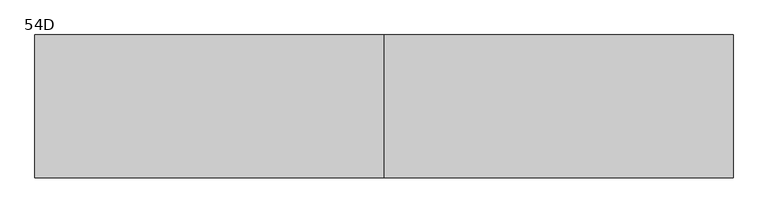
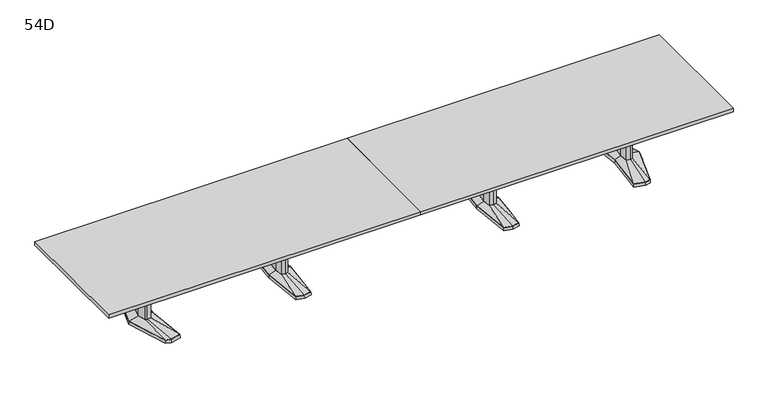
"""IFC4 building model written with IfcOpenShell, lengths in millimetres: furniture geometry, Coalesse_AM_Table_Conference_ETable2_Rectangular_22ft_AluminiumBase : 54D."""

from ifc_helpers import new_model, si_unit, frame, origin, place, context, project, spatial, polyline, outline, extrude, faceted_brep, source, transform, mapped, element, save
from ifc_brep_helpers import plane_surface, spline_surface, advanced_brep


def furniture_54d_8565a637(model_context):
    return source(origin(), model_context, "Body", "SolidModel", [
        faceted_brep([(1036.3666209, -433.8053819, 38.1), (1117.6, -455.556576, 38.1), (1198.8333791, -433.8053819, 38.1), (1236.6564774, 0.0, 38.1), (1198.8333791, 433.8053819, 38.1), (1117.6, 455.556576, 38.1), (1036.3666209, 433.8053819, 38.1), (998.5435226, 0.0, 38.1), (1034.8817205, -435.0512063, 3.175), (996.95, 0.0, 3.175), (1034.8817205, 435.0512063, 3.175), (1117.6, 457.2, 3.175), (1200.3182795, 435.0512063, 3.175), (1238.25, 0.0, 3.175), (1200.3182795, -435.0512063, 3.175), (1117.6, -457.2, 3.175), (1117.6, 429.2617927, 3.175), (1039.6323194, 408.3850278, 3.175), (1042.8980179, 382.9646737, 3.175), (1117.6, 402.9670094, 3.175), (1192.3019821, 382.9646737, 3.175), (1195.5676806, 408.3850278, 3.175), (1117.6, -429.2617927, 3.175), (1195.5676806, -408.3850278, 3.175), (1192.3019821, -382.9646737, 3.175), (1117.6, -402.9670094, 3.175), (1042.8980179, -382.9646737, 3.175), (1039.6323194, -408.3850278, 3.175), (1045.7425738, 114.6326257, 3.175), (1035.0573924, 0.0, 3.175), (1045.7425738, -114.6326257, 3.175), (1117.6, -133.8761372, 3.175), (1189.4574262, -114.6326257, 3.175), (1200.1426076, 0.0, 3.175), (1189.4574262, 114.6326257, 3.175), (1117.6, 133.8761372, 3.175), (1117.6, 429.2617927, 0.0), (1195.5676806, 408.3850278, 0.0), (1192.3019821, 382.9646737, 0.0), (1117.6, 402.9670094, 0.0), (1042.8980179, 382.9646737, 0.0), (1039.6323194, 408.3850278, 0.0), (1117.6, -429.2617927, 0.0), (1039.6323194, -408.3850278, 0.0), (1042.8980179, -382.9646737, 0.0), (1117.6, -402.9670094, 0.0), (1192.3019821, -382.9646737, 0.0), (1195.5676806, -408.3850278, 0.0), (1045.7425738, 114.6326257, 0.0), (1117.6, 133.8761372, 0.0), (1189.4574262, 114.6326257, 0.0), (1200.1426076, 0.0, 0.0), (1189.4574262, -114.6326257, 0.0), (1117.6, -133.8761372, 0.0), (1045.7425738, -114.6326257, 0.0), (1035.0573924, 0.0, 0.0)], [[[0, 1, 2, 3, 4, 5, 6, 7]], [[8, 9, 10, 11, 12, 13, 14, 15], [16, 17, 18, 19, 20, 21], [22, 23, 24, 25, 26, 27], [28, 29, 30, 31, 32, 33, 34, 35]], [[1, 0, 8, 15]], [[2, 1, 15, 14]], [[3, 2, 14, 13]], [[4, 3, 13, 12]], [[5, 4, 12, 11]], [[6, 5, 11, 10]], [[7, 6, 10, 9]], [[0, 7, 9, 8]], [[36, 37, 38, 39, 40, 41]], [[42, 43, 44, 45, 46, 47]], [[48, 49, 50, 51, 52, 53, 54, 55]], [[36, 41, 17, 16]], [[41, 40, 18, 17]], [[40, 39, 19, 18]], [[39, 38, 20, 19]], [[38, 37, 21, 20]], [[37, 36, 16, 21]], [[42, 47, 23, 22]], [[47, 46, 24, 23]], [[46, 45, 25, 24]], [[45, 44, 26, 25]], [[44, 43, 27, 26]], [[43, 42, 22, 27]], [[48, 55, 29, 28]], [[55, 54, 30, 29]], [[54, 53, 31, 30]], [[53, 52, 32, 31]], [[52, 51, 33, 32]], [[51, 50, 34, 33]], [[50, 49, 35, 34]], [[49, 48, 28, 35]]]),
        faceted_brep([(1081.2167166, 84.6900825, 698.5), (1073.3225513, 0.0, 698.5), (1081.2167166, -84.6900825, 698.5), (1117.6, -94.4335728, 698.5), (1153.9832834, -84.6900825, 698.5), (1161.8774487, 0.0, 698.5), (1153.9832834, 84.6900825, 698.5), (1117.6, 94.4335728, 698.5), (1081.2167166, 84.6900825, 63.5), (1117.6, 94.4335728, 63.5), (1153.9832834, 84.6900825, 63.5), (1161.8774487, 0.0, 63.5), (1153.9832834, -84.6900825, 63.5), (1117.6, -94.4335728, 63.5), (1081.2167166, -84.6900825, 63.5), (1073.3225513, 0.0, 63.5)], [[[0, 1, 2, 3, 4, 5, 6, 7]], [[8, 9, 10, 11, 12, 13, 14, 15]], [[1, 0, 8, 15]], [[2, 1, 15, 14]], [[3, 2, 14, 13]], [[4, 3, 13, 12]], [[5, 4, 12, 11]], [[6, 5, 11, 10]], [[7, 6, 10, 9]], [[0, 7, 9, 8]]]),
        advanced_brep(
        [(1081.2167166, 84.6900825, 63.5), (1073.3225513, 0.0, 63.5), (1081.2167166, -84.6900825, 63.5), (1117.6, -94.4335728, 63.5), (1153.9832834, -84.6900825, 63.5), (1161.8774487, 0.0, 63.5), (1153.9832834, 84.6900825, 63.5), (1117.6, 94.4335728, 63.5), (1036.3666209, 433.8053819, 38.1), (1117.6, 455.556576, 38.1), (1198.8333791, 433.8053819, 38.1), (1236.6564774, 0.0, 38.1), (1198.8333791, -433.8053819, 38.1), (1117.6, -455.556576, 38.1), (1036.3666209, -433.8053819, 38.1), (998.5435226, 0.0, 38.1)],
        [
            (0, 1),
            (1, 2),
            (2, 3),
            (3, 4),
            (4, 5),
            (5, 6),
            (6, 7),
            (7, 0),
            (8, 9),
            (9, 10),
            (10, 11),
            (11, 12),
            (12, 13),
            (13, 14),
            (14, 15),
            (15, 8),
            (15, 1),
            (0, 8),
            (14, 2),
            (13, 3),
            (12, 4),
            (11, 5),
            (10, 6),
            (9, 7),
        ],
        [
            plane_surface(frame((1117.6, 0.0, 63.5), z_axis=(0.0, 0.0, 1.0000000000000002), x_axis=(-0.9659615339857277, -0.25868574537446, 0.0))),
            plane_surface(frame((1117.6, 0.0, 38.1), z_axis=(0.0, 0.0, -1.0000000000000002), x_axis=(-0.9659615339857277, -0.25868574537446, 0.0))),
            spline_surface(1, 1, [[(1036.3666209, 433.8053819, 38.1), (1081.2167166, 84.6900825, 63.5)], [(998.5435226, 0.0, 38.1), (1073.3225513, 0.0, 63.5)]], [2, 2], [2, 2], [0.0, 1.0], [0.0, 1.0]),
            spline_surface(1, 1, [[(998.5435226, 0.0, 38.1), (1073.3225513, 0.0, 63.5)], [(1036.3666209, -433.8053819, 38.1), (1081.2167166, -84.6900825, 63.5)]], [2, 2], [2, 2], [0.0, 1.0], [0.0, 1.0]),
            spline_surface(1, 1, [[(1036.3666209, -433.8053819, 38.1), (1081.2167166, -84.6900825, 63.5)], [(1117.6, -455.556576, 38.1), (1117.6, -94.4335728, 63.5)]], [2, 2], [2, 2], [0.0, 1.0], [0.0, 1.0]),
            spline_surface(1, 1, [[(1117.6, -455.556576, 38.1), (1117.6, -94.4335728, 63.5)], [(1198.8333791, -433.8053819, 38.1), (1153.9832834, -84.6900825, 63.5)]], [2, 2], [2, 2], [0.0, 1.0], [0.0, 1.0]),
            spline_surface(1, 1, [[(1198.8333791, -433.8053819, 38.1), (1153.9832834, -84.6900825, 63.5)], [(1236.6564774, 0.0, 38.1), (1161.8774487, 0.0, 63.5)]], [2, 2], [2, 2], [0.0, 1.0], [0.0, 1.0]),
            spline_surface(1, 1, [[(1236.6564774, 0.0, 38.1), (1161.8774487, 0.0, 63.5)], [(1198.8333791, 433.8053819, 38.1), (1153.9832834, 84.6900825, 63.5)]], [2, 2], [2, 2], [0.0, 1.0], [0.0, 1.0]),
            spline_surface(1, 1, [[(1198.8333791, 433.8053819, 38.1), (1153.9832834, 84.6900825, 63.5)], [(1117.6, 455.556576, 38.1), (1117.6, 94.4335728, 63.5)]], [2, 2], [2, 2], [0.0, 1.0], [0.0, 1.0]),
            spline_surface(1, 1, [[(1117.6, 455.556576, 38.1), (1117.6, 94.4335728, 63.5)], [(1036.3666209, 433.8053819, 38.1), (1081.2167166, 84.6900825, 63.5)]], [2, 2], [2, 2], [0.0, 1.0], [0.0, 1.0]),
        ],
        [
            (0, [[1, 2, 3, 4, 5, 6, 7, 8]]),
            (1, [[9, 10, 11, 12, 13, 14, 15, 16]]),
            (2, [[-16, 17, -1, 18]]),
            (3, [[-15, 19, -2, -17]]),
            (4, [[-14, 20, -3, -19]]),
            (5, [[-13, 21, -4, -20]]),
            (6, [[-12, 22, -5, -21]]),
            (7, [[-11, 23, -6, -22]]),
            (8, [[-10, 24, -7, -23]]),
            (9, [[-9, -18, -8, -24]]),
        ],
    ),
        faceted_brep([(-1198.8333791, -433.8053819, 38.1), (-1117.6, -455.556576, 38.1), (-1036.3666209, -433.8053819, 38.1), (-998.5435226, 0.0, 38.1), (-1036.3666209, 433.8053819, 38.1), (-1117.6, 455.556576, 38.1), (-1198.8333791, 433.8053819, 38.1), (-1236.6564774, 0.0, 38.1), (-1200.3182795, -435.0512063, 3.175), (-1238.25, 0.0, 3.175), (-1200.3182795, 435.0512063, 3.175), (-1117.6, 457.2, 3.175), (-1034.8817205, 435.0512063, 3.175), (-996.95, 0.0, 3.175), (-1034.8817205, -435.0512063, 3.175), (-1117.6, -457.2, 3.175), (-1117.6, 429.2617927, 3.175), (-1195.5676806, 408.3850278, 3.175), (-1192.3019821, 382.9646737, 3.175), (-1117.6, 402.9670094, 3.175), (-1042.8980179, 382.9646737, 3.175), (-1039.6323194, 408.3850278, 3.175), (-1117.6, -429.2617927, 3.175), (-1039.6323194, -408.3850278, 3.175), (-1042.8980179, -382.9646737, 3.175), (-1117.6, -402.9670094, 3.175), (-1192.3019821, -382.9646737, 3.175), (-1195.5676806, -408.3850278, 3.175), (-1189.4574262, 114.6326257, 3.175), (-1200.1426076, 0.0, 3.175), (-1189.4574262, -114.6326257, 3.175), (-1117.6, -133.8761372, 3.175), (-1045.7425738, -114.6326257, 3.175), (-1035.0573924, 0.0, 3.175), (-1045.7425738, 114.6326257, 3.175), (-1117.6, 133.8761372, 3.175), (-1117.6, 429.2617927, 0.0), (-1039.6323194, 408.3850278, 0.0), (-1042.8980179, 382.9646737, 0.0), (-1117.6, 402.9670094, 0.0), (-1192.3019821, 382.9646737, 0.0), (-1195.5676806, 408.3850278, 0.0), (-1117.6, -429.2617927, 0.0), (-1195.5676806, -408.3850278, 0.0), (-1192.3019821, -382.9646737, 0.0), (-1117.6, -402.9670094, 0.0), (-1042.8980179, -382.9646737, 0.0), (-1039.6323194, -408.3850278, 0.0), (-1189.4574262, 114.6326257, 0.0), (-1117.6, 133.8761372, 0.0), (-1045.7425738, 114.6326257, 0.0), (-1035.0573924, 0.0, 0.0), (-1045.7425738, -114.6326257, 0.0), (-1117.6, -133.8761372, 0.0), (-1189.4574262, -114.6326257, 0.0), (-1200.1426076, 0.0, 0.0)], [[[0, 1, 2, 3, 4, 5, 6, 7]], [[8, 9, 10, 11, 12, 13, 14, 15], [16, 17, 18, 19, 20, 21], [22, 23, 24, 25, 26, 27], [28, 29, 30, 31, 32, 33, 34, 35]], [[1, 0, 8, 15]], [[2, 1, 15, 14]], [[3, 2, 14, 13]], [[4, 3, 13, 12]], [[5, 4, 12, 11]], [[6, 5, 11, 10]], [[7, 6, 10, 9]], [[0, 7, 9, 8]], [[36, 37, 38, 39, 40, 41]], [[42, 43, 44, 45, 46, 47]], [[48, 49, 50, 51, 52, 53, 54, 55]], [[36, 41, 17, 16]], [[41, 40, 18, 17]], [[40, 39, 19, 18]], [[39, 38, 20, 19]], [[38, 37, 21, 20]], [[37, 36, 16, 21]], [[42, 47, 23, 22]], [[47, 46, 24, 23]], [[46, 45, 25, 24]], [[45, 44, 26, 25]], [[44, 43, 27, 26]], [[43, 42, 22, 27]], [[48, 55, 29, 28]], [[55, 54, 30, 29]], [[54, 53, 31, 30]], [[53, 52, 32, 31]], [[52, 51, 33, 32]], [[51, 50, 34, 33]], [[50, 49, 35, 34]], [[49, 48, 28, 35]]]),
        faceted_brep([(-1153.9832834, 84.6900825, 698.5), (-1161.8774487, 0.0, 698.5), (-1153.9832834, -84.6900825, 698.5), (-1117.6, -94.4335728, 698.5), (-1081.2167166, -84.6900825, 698.5), (-1073.3225513, 0.0, 698.5), (-1081.2167166, 84.6900825, 698.5), (-1117.6, 94.4335728, 698.5), (-1153.9832834, 84.6900825, 63.5), (-1117.6, 94.4335728, 63.5), (-1081.2167166, 84.6900825, 63.5), (-1073.3225513, 0.0, 63.5), (-1081.2167166, -84.6900825, 63.5), (-1117.6, -94.4335728, 63.5), (-1153.9832834, -84.6900825, 63.5), (-1161.8774487, 0.0, 63.5)], [[[0, 1, 2, 3, 4, 5, 6, 7]], [[8, 9, 10, 11, 12, 13, 14, 15]], [[1, 0, 8, 15]], [[2, 1, 15, 14]], [[3, 2, 14, 13]], [[4, 3, 13, 12]], [[5, 4, 12, 11]], [[6, 5, 11, 10]], [[7, 6, 10, 9]], [[0, 7, 9, 8]]]),
        advanced_brep(
        [(-1153.9832834, 84.6900825, 63.5), (-1161.8774487, 0.0, 63.5), (-1153.9832834, -84.6900825, 63.5), (-1117.6, -94.4335728, 63.5), (-1081.2167166, -84.6900825, 63.5), (-1073.3225513, 0.0, 63.5), (-1081.2167166, 84.6900825, 63.5), (-1117.6, 94.4335728, 63.5), (-1198.8333791, 433.8053819, 38.1), (-1117.6, 455.556576, 38.1), (-1036.3666209, 433.8053819, 38.1), (-998.5435226, 0.0, 38.1), (-1036.3666209, -433.8053819, 38.1), (-1117.6, -455.556576, 38.1), (-1198.8333791, -433.8053819, 38.1), (-1236.6564774, 0.0, 38.1)],
        [
            (0, 1),
            (1, 2),
            (2, 3),
            (3, 4),
            (4, 5),
            (5, 6),
            (6, 7),
            (7, 0),
            (8, 9),
            (9, 10),
            (10, 11),
            (11, 12),
            (12, 13),
            (13, 14),
            (14, 15),
            (15, 8),
            (15, 1),
            (0, 8),
            (14, 2),
            (13, 3),
            (12, 4),
            (11, 5),
            (10, 6),
            (9, 7),
        ],
        [
            plane_surface(frame((-1117.6, 0.0, 63.5), z_axis=(0.0, 0.0, 1.0000000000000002), x_axis=(-0.9659615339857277, -0.25868574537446, 0.0))),
            plane_surface(frame((-1117.6, 0.0, 38.1), z_axis=(0.0, 0.0, -1.0000000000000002), x_axis=(-0.9659615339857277, -0.25868574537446, 0.0))),
            spline_surface(1, 1, [[(-1198.8333791, 433.8053819, 38.1), (-1153.9832834, 84.6900825, 63.5)], [(-1236.6564774, 0.0, 38.1), (-1161.8774487, 0.0, 63.5)]], [2, 2], [2, 2], [0.0, 1.0], [0.0, 1.0]),
            spline_surface(1, 1, [[(-1236.6564774, 0.0, 38.1), (-1161.8774487, 0.0, 63.5)], [(-1198.8333791, -433.8053819, 38.1), (-1153.9832834, -84.6900825, 63.5)]], [2, 2], [2, 2], [0.0, 1.0], [0.0, 1.0]),
            spline_surface(1, 1, [[(-1198.8333791, -433.8053819, 38.1), (-1153.9832834, -84.6900825, 63.5)], [(-1117.6, -455.556576, 38.1), (-1117.6, -94.4335728, 63.5)]], [2, 2], [2, 2], [0.0, 1.0], [0.0, 1.0]),
            spline_surface(1, 1, [[(-1117.6, -455.556576, 38.1), (-1117.6, -94.4335728, 63.5)], [(-1036.3666209, -433.8053819, 38.1), (-1081.2167166, -84.6900825, 63.5)]], [2, 2], [2, 2], [0.0, 1.0], [0.0, 1.0]),
            spline_surface(1, 1, [[(-1036.3666209, -433.8053819, 38.1), (-1081.2167166, -84.6900825, 63.5)], [(-998.5435226, 0.0, 38.1), (-1073.3225513, 0.0, 63.5)]], [2, 2], [2, 2], [0.0, 1.0], [0.0, 1.0]),
            spline_surface(1, 1, [[(-998.5435226, 0.0, 38.1), (-1073.3225513, 0.0, 63.5)], [(-1036.3666209, 433.8053819, 38.1), (-1081.2167166, 84.6900825, 63.5)]], [2, 2], [2, 2], [0.0, 1.0], [0.0, 1.0]),
            spline_surface(1, 1, [[(-1036.3666209, 433.8053819, 38.1), (-1081.2167166, 84.6900825, 63.5)], [(-1117.6, 455.556576, 38.1), (-1117.6, 94.4335728, 63.5)]], [2, 2], [2, 2], [0.0, 1.0], [0.0, 1.0]),
            spline_surface(1, 1, [[(-1117.6, 455.556576, 38.1), (-1117.6, 94.4335728, 63.5)], [(-1198.8333791, 433.8053819, 38.1), (-1153.9832834, 84.6900825, 63.5)]], [2, 2], [2, 2], [0.0, 1.0], [0.0, 1.0]),
        ],
        [
            (0, [[1, 2, 3, 4, 5, 6, 7, 8]]),
            (1, [[9, 10, 11, 12, 13, 14, 15, 16]]),
            (2, [[-16, 17, -1, 18]]),
            (3, [[-15, 19, -2, -17]]),
            (4, [[-14, 20, -3, -19]]),
            (5, [[-13, 21, -4, -20]]),
            (6, [[-12, 22, -5, -21]]),
            (7, [[-11, 23, -6, -22]]),
            (8, [[-10, 24, -7, -23]]),
            (9, [[-9, -18, -8, -24]]),
        ],
    ),
        faceted_brep([(2548.0994335, 455.5848221, 38.1), (2438.5218777, 426.2263816, 38.1), (2479.6851217, 0.0, 38.1), (2438.5218777, -426.2263816, 38.1), (2548.0994335, -455.5848221, 38.1), (2604.2257896, -440.5478297, 38.1), (2741.5371769, 0.0, 38.1), (2604.2257896, 440.5478297, 38.1), (2548.0994254, 457.2283104, 3.175), (2605.4811972, 441.8549756, 3.175), (2743.2, 0.0, 3.175), (2605.4811972, -441.8549756, 3.175), (2548.0994254, -457.2283104, 3.175), (2436.8125, -427.4118891, 3.175), (2478.0902356, 0.0, 3.175), (2436.8125, 427.4118891, 3.175), (2551.688865, 428.3273875, 3.175), (2446.6405728, 402.1057253, 3.175), (2454.759268, 377.985069, 3.175), (2555.2782966, 401.0699529, 3.175), (2605.8379225, 387.524361, 3.175), (2605.0318561, 414.0360954, 3.175), (2551.688865, -428.3273875, 3.175), (2605.0318561, -414.0360954, 3.175), (2605.8379225, -387.524361, 3.175), (2555.2782966, -401.0699529, 3.175), (2454.759268, -377.985069, 3.175), (2446.6405728, -402.1057253, 3.175), (2678.2841121, 0.0, 3.175), (2646.0147111, 120.4193755, 3.175), (2597.3674722, 133.471665, 3.175), (2517.4868026, 119.4176561, 3.175), (2506.3555966, 0.0, 3.175), (2517.4868026, -119.4176561, 3.175), (2597.3674722, -133.471665, 3.175), (2646.0147111, -120.4193755, 3.175), (2551.688865, 428.3273875, 0.0), (2605.0318561, 414.0360954, 0.0), (2605.8379225, 387.524361, 0.0), (2555.2782966, 401.0699529, 0.0), (2454.759268, 377.985069, 0.0), (2446.6405728, 402.1057253, 0.0), (2551.688865, -428.3273875, 0.0), (2446.6405728, -402.1057253, 0.0), (2454.759268, -377.985069, 0.0), (2555.2782966, -401.0699529, 0.0), (2605.8379225, -387.524361, 0.0), (2605.0318561, -414.0360954, 0.0), (2678.2841121, 0.0, 0.0), (2646.0147111, -120.4193755, 0.0), (2597.3674722, -133.471665, 0.0), (2517.4868026, -119.4176561, 0.0), (2506.3555966, 0.0, 0.0), (2517.4868026, 119.4176561, 0.0), (2597.3674722, 133.471665, 0.0), (2646.0147111, 120.4193755, 0.0)], [[[0, 1, 2, 3, 4, 5, 6, 7]], [[8, 9, 10, 11, 12, 13, 14, 15], [16, 17, 18, 19, 20, 21], [22, 23, 24, 25, 26, 27], [28, 29, 30, 31, 32, 33, 34, 35]], [[7, 9, 8, 0]], [[6, 10, 9, 7]], [[5, 11, 10, 6]], [[4, 12, 11, 5]], [[3, 13, 12, 4]], [[2, 14, 13, 3]], [[1, 15, 14, 2]], [[0, 8, 15, 1]], [[36, 37, 38, 39, 40, 41]], [[42, 43, 44, 45, 46, 47]], [[48, 49, 50, 51, 52, 53, 54, 55]], [[36, 16, 21, 37]], [[37, 21, 20, 38]], [[38, 20, 19, 39]], [[39, 19, 18, 40]], [[40, 18, 17, 41]], [[41, 17, 16, 36]], [[42, 22, 27, 43]], [[43, 27, 26, 44]], [[44, 26, 25, 45]], [[45, 25, 24, 46]], [[46, 24, 23, 47]], [[47, 23, 22, 42]], [[48, 28, 35, 49]], [[49, 35, 34, 50]], [[50, 34, 33, 51]], [[51, 33, 32, 52]], [[52, 32, 31, 53]], [[53, 31, 30, 54]], [[54, 30, 29, 55]], [[55, 29, 28, 48]]]),
        faceted_brep([(2638.8398336, 0.0, 698.5), (2614.9046046, 89.3188359, 698.5), (2598.0512484, 93.8406728, 698.5), (2595.6514011, 94.4845635, 698.5), (2552.723896, 86.9320037, 698.5), (2544.6207556, 0.0, 698.5), (2552.723896, -86.9320037, 698.5), (2595.6514011, -94.4845635, 698.5), (2598.0512484, -93.8406728, 698.5), (2614.9046046, -89.3188359, 698.5), (2638.8398336, 0.0, 63.5), (2614.9046046, -89.3188359, 63.5), (2598.0512484, -93.8406728, 63.5), (2595.6514011, -94.4845635, 63.5), (2552.723896, -86.9320037, 63.5), (2544.6207556, 0.0, 63.5), (2552.723896, 86.9320037, 63.5), (2595.6514011, 94.4845635, 63.5), (2598.0512484, 93.8406728, 63.5), (2614.9046046, 89.3188359, 63.5)], [[[0, 1, 2, 3, 4, 5, 6, 7, 8, 9]], [[10, 11, 12, 13, 14, 15, 16, 17, 18, 19]], [[9, 11, 10, 0]], [[8, 12, 11, 9]], [[7, 13, 12, 8]], [[6, 14, 13, 7]], [[5, 15, 14, 6]], [[4, 16, 15, 5]], [[3, 17, 16, 4]], [[2, 18, 17, 3]], [[1, 19, 18, 2]], [[0, 10, 19, 1]]]),
        advanced_brep(
        [(2595.6514011, 94.4845635, 63.5), (2552.723896, 86.9320037, 63.5), (2544.6207556, 0.0, 63.5), (2552.723896, -86.9320037, 63.5), (2595.6514011, -94.4845635, 63.5), (2614.9046046, -89.3188359, 63.5), (2638.8398336, 0.0, 63.5), (2614.9046046, 89.3188359, 63.5), (2548.0994335, 455.5848221, 38.1), (2604.2257896, 440.5478297, 38.1), (2741.5371769, 0.0, 38.1), (2604.2257896, -440.5478297, 38.1), (2548.0994335, -455.5848221, 38.1), (2438.5218777, -426.2263816, 38.1), (2479.6851217, 0.0, 38.1), (2438.5218777, 426.2263816, 38.1)],
        [
            (0, 1),
            (1, 2),
            (2, 3),
            (3, 4),
            (4, 5),
            (5, 6),
            (6, 7),
            (7, 0),
            (8, 9),
            (9, 10),
            (10, 11),
            (11, 12),
            (12, 13),
            (13, 14),
            (14, 15),
            (15, 8),
            (8, 0),
            (7, 9),
            (6, 10),
            (5, 11),
            (4, 12),
            (3, 13),
            (2, 14),
            (1, 15),
        ],
        [
            plane_surface(frame((2588.7525491, 0.0, 63.5), z_axis=(0.0, 0.0, 1.0), x_axis=(-0.25884244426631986, -0.9659195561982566, 0.0))),
            plane_surface(frame((2550.3645625, 0.0, 38.1), z_axis=(0.0, 0.0, -1.0), x_axis=(-0.25884244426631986, -0.9659195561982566, 0.0))),
            spline_surface(1, 1, [[(2548.0994335, 455.5848221, 38.1), (2604.2257896, 440.5478297, 38.1)], [(2595.6514011, 94.4845635, 63.5), (2614.9046046, 89.3188359, 63.5)]], [2, 2], [2, 2], [0.0, 1.0], [0.0, 1.0]),
            spline_surface(1, 1, [[(2604.2257896, 440.5478297, 38.1), (2741.5371769, 0.0, 38.1)], [(2614.9046046, 89.3188359, 63.5), (2638.8398336, 0.0, 63.5)]], [2, 2], [2, 2], [0.0, 1.0], [0.0, 1.0]),
            spline_surface(1, 1, [[(2741.5371769, 0.0, 38.1), (2604.2257896, -440.5478297, 38.1)], [(2638.8398336, 0.0, 63.5), (2614.9046046, -89.3188359, 63.5)]], [2, 2], [2, 2], [0.0, 1.0], [0.0, 1.0]),
            spline_surface(1, 1, [[(2604.2257896, -440.5478297, 38.1), (2548.0994335, -455.5848221, 38.1)], [(2614.9046046, -89.3188359, 63.5), (2595.6514011, -94.4845635, 63.5)]], [2, 2], [2, 2], [0.0, 1.0], [0.0, 1.0]),
            spline_surface(1, 1, [[(2548.0994335, -455.5848221, 38.1), (2438.5218777, -426.2263816, 38.1)], [(2595.6514011, -94.4845635, 63.5), (2552.723896, -86.9320037, 63.5)]], [2, 2], [2, 2], [0.0, 1.0], [0.0, 1.0]),
            spline_surface(1, 1, [[(2438.5218777, -426.2263816, 38.1), (2479.6851217, 0.0, 38.1)], [(2552.723896, -86.9320037, 63.5), (2544.6207556, 0.0, 63.5)]], [2, 2], [2, 2], [0.0, 1.0], [0.0, 1.0]),
            spline_surface(1, 1, [[(2479.6851217, 0.0, 38.1), (2438.5218777, 426.2263816, 38.1)], [(2544.6207556, 0.0, 63.5), (2552.723896, 86.9320037, 63.5)]], [2, 2], [2, 2], [0.0, 1.0], [0.0, 1.0]),
            spline_surface(1, 1, [[(2438.5218777, 426.2263816, 38.1), (2548.0994335, 455.5848221, 38.1)], [(2552.723896, 86.9320037, 63.5), (2595.6514011, 94.4845635, 63.5)]], [2, 2], [2, 2], [0.0, 1.0], [0.0, 1.0]),
        ],
        [
            (0, [[1, 2, 3, 4, 5, 6, 7, 8]]),
            (1, [[9, 10, 11, 12, 13, 14, 15, 16]]),
            (2, [[17, -8, 18, -9]]),
            (3, [[-18, -7, 19, -10]]),
            (4, [[-19, -6, 20, -11]]),
            (5, [[-20, -5, 21, -12]]),
            (6, [[-21, -4, 22, -13]]),
            (7, [[-22, -3, 23, -14]]),
            (8, [[-23, -2, 24, -15]]),
            (9, [[-24, -1, -17, -16]]),
        ],
    ),
        faceted_brep([(-2548.0994335, 455.5848221, 38.1), (-2604.2257896, 440.5478297, 38.1), (-2741.5371769, 0.0, 38.1), (-2604.2257896, -440.5478297, 38.1), (-2548.0994335, -455.5848221, 38.1), (-2438.5218777, -426.2263816, 38.1), (-2479.6851217, 0.0, 38.1), (-2438.5218777, 426.2263816, 38.1), (-2548.0994254, 457.2283104, 3.175), (-2436.8125, 427.4118891, 3.175), (-2478.0902356, 0.0, 3.175), (-2436.8125, -427.4118891, 3.175), (-2548.0994254, -457.2283104, 3.175), (-2605.4811972, -441.8549756, 3.175), (-2743.2, 0.0, 3.175), (-2605.4811972, 441.8549756, 3.175), (-2551.688865, 428.3273875, 3.175), (-2605.0318561, 414.0360954, 3.175), (-2605.8379225, 387.524361, 3.175), (-2555.2782966, 401.0699529, 3.175), (-2454.759268, 377.985069, 3.175), (-2446.6405728, 402.1057253, 3.175), (-2551.688865, -428.3273875, 3.175), (-2446.6405728, -402.1057253, 3.175), (-2454.759268, -377.985069, 3.175), (-2555.2782966, -401.0699529, 3.175), (-2605.8379225, -387.524361, 3.175), (-2605.0318561, -414.0360954, 3.175), (-2678.2841121, 0.0, 3.175), (-2646.0147111, -120.4193755, 3.175), (-2597.3674722, -133.471665, 3.175), (-2517.4868026, -119.4176561, 3.175), (-2506.3555966, 0.0, 3.175), (-2517.4868026, 119.4176561, 3.175), (-2597.3674722, 133.471665, 3.175), (-2646.0147111, 120.4193755, 3.175), (-2551.688865, 428.3273875, 0.0), (-2446.6405728, 402.1057253, 0.0), (-2454.759268, 377.985069, 0.0), (-2555.2782966, 401.0699529, 0.0), (-2605.8379225, 387.524361, 0.0), (-2605.0318561, 414.0360954, 0.0), (-2551.688865, -428.3273875, 0.0), (-2605.0318561, -414.0360954, 0.0), (-2605.8379225, -387.524361, 0.0), (-2555.2782966, -401.0699529, 0.0), (-2454.759268, -377.985069, 0.0), (-2446.6405728, -402.1057253, 0.0), (-2678.2841121, 0.0, 0.0), (-2646.0147111, 120.4193755, 0.0), (-2597.3674722, 133.471665, 0.0), (-2517.4868026, 119.4176561, 0.0), (-2506.3555966, 0.0, 0.0), (-2517.4868026, -119.4176561, 0.0), (-2597.3674722, -133.471665, 0.0), (-2646.0147111, -120.4193755, 0.0)], [[[0, 1, 2, 3, 4, 5, 6, 7]], [[8, 9, 10, 11, 12, 13, 14, 15], [16, 17, 18, 19, 20, 21], [22, 23, 24, 25, 26, 27], [28, 29, 30, 31, 32, 33, 34, 35]], [[1, 0, 8, 15]], [[2, 1, 15, 14]], [[3, 2, 14, 13]], [[4, 3, 13, 12]], [[5, 4, 12, 11]], [[6, 5, 11, 10]], [[7, 6, 10, 9]], [[0, 7, 9, 8]], [[36, 37, 38, 39, 40, 41]], [[42, 43, 44, 45, 46, 47]], [[48, 49, 50, 51, 52, 53, 54, 55]], [[36, 41, 17, 16]], [[41, 40, 18, 17]], [[40, 39, 19, 18]], [[39, 38, 20, 19]], [[38, 37, 21, 20]], [[37, 36, 16, 21]], [[42, 47, 23, 22]], [[47, 46, 24, 23]], [[46, 45, 25, 24]], [[45, 44, 26, 25]], [[44, 43, 27, 26]], [[43, 42, 22, 27]], [[48, 55, 29, 28]], [[55, 54, 30, 29]], [[54, 53, 31, 30]], [[53, 52, 32, 31]], [[52, 51, 33, 32]], [[51, 50, 34, 33]], [[50, 49, 35, 34]], [[49, 48, 28, 35]]]),
        faceted_brep([(-2638.8398336, 0.0, 698.5), (-2614.9046046, -89.3188359, 698.5), (-2598.0512484, -93.8406728, 698.5), (-2595.6514011, -94.4845635, 698.5), (-2552.723896, -86.9320037, 698.5), (-2544.6207556, 0.0, 698.5), (-2552.723896, 86.9320037, 698.5), (-2595.6514011, 94.4845635, 698.5), (-2598.0512484, 93.8406728, 698.5), (-2614.9046046, 89.3188359, 698.5), (-2638.8398336, 0.0, 63.5), (-2614.9046046, 89.3188359, 63.5), (-2598.0512484, 93.8406728, 63.5), (-2595.6514011, 94.4845635, 63.5), (-2552.723896, 86.9320037, 63.5), (-2544.6207556, 0.0, 63.5), (-2552.723896, -86.9320037, 63.5), (-2595.6514011, -94.4845635, 63.5), (-2598.0512484, -93.8406728, 63.5), (-2614.9046046, -89.3188359, 63.5)], [[[0, 1, 2, 3, 4, 5, 6, 7, 8, 9]], [[10, 11, 12, 13, 14, 15, 16, 17, 18, 19]], [[1, 0, 10, 19]], [[2, 1, 19, 18]], [[3, 2, 18, 17]], [[4, 3, 17, 16]], [[5, 4, 16, 15]], [[6, 5, 15, 14]], [[7, 6, 14, 13]], [[8, 7, 13, 12]], [[9, 8, 12, 11]], [[0, 9, 11, 10]]]),
        advanced_brep(
        [(-2595.6514011, 94.4845635, 63.5), (-2614.9046046, 89.3188359, 63.5), (-2638.8398336, 0.0, 63.5), (-2614.9046046, -89.3188359, 63.5), (-2595.6514011, -94.4845635, 63.5), (-2552.723896, -86.9320037, 63.5), (-2544.6207556, 0.0, 63.5), (-2552.723896, 86.9320037, 63.5), (-2548.0994335, 455.5848221, 38.1), (-2438.5218777, 426.2263816, 38.1), (-2479.6851217, 0.0, 38.1), (-2438.5218777, -426.2263816, 38.1), (-2548.0994335, -455.5848221, 38.1), (-2604.2257896, -440.5478297, 38.1), (-2741.5371769, 0.0, 38.1), (-2604.2257896, 440.5478297, 38.1)],
        [
            (0, 1),
            (1, 2),
            (2, 3),
            (3, 4),
            (4, 5),
            (5, 6),
            (6, 7),
            (7, 0),
            (8, 9),
            (9, 10),
            (10, 11),
            (11, 12),
            (12, 13),
            (13, 14),
            (14, 15),
            (15, 8),
            (15, 1),
            (0, 8),
            (14, 2),
            (13, 3),
            (12, 4),
            (11, 5),
            (10, 6),
            (9, 7),
        ],
        [
            plane_surface(frame((-2588.7525491, 0.0, 63.5), z_axis=(0.0, 0.0, 1.0), x_axis=(0.25884244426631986, -0.9659195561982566, 0.0))),
            plane_surface(frame((-2550.3645625, 0.0, 38.1), z_axis=(0.0, 0.0, -1.0), x_axis=(0.25884244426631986, -0.9659195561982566, 0.0))),
            spline_surface(1, 1, [[(-2548.0994335, 455.5848221, 38.1), (-2595.6514011, 94.4845635, 63.5)], [(-2604.2257896, 440.5478297, 38.1), (-2614.9046046, 89.3188359, 63.5)]], [2, 2], [2, 2], [0.0, 1.0], [0.0, 1.0]),
            spline_surface(1, 1, [[(-2604.2257896, 440.5478297, 38.1), (-2614.9046046, 89.3188359, 63.5)], [(-2741.5371769, 0.0, 38.1), (-2638.8398336, 0.0, 63.5)]], [2, 2], [2, 2], [0.0, 1.0], [0.0, 1.0]),
            spline_surface(1, 1, [[(-2741.5371769, 0.0, 38.1), (-2638.8398336, 0.0, 63.5)], [(-2604.2257896, -440.5478297, 38.1), (-2614.9046046, -89.3188359, 63.5)]], [2, 2], [2, 2], [0.0, 1.0], [0.0, 1.0]),
            spline_surface(1, 1, [[(-2604.2257896, -440.5478297, 38.1), (-2614.9046046, -89.3188359, 63.5)], [(-2548.0994335, -455.5848221, 38.1), (-2595.6514011, -94.4845635, 63.5)]], [2, 2], [2, 2], [0.0, 1.0], [0.0, 1.0]),
            spline_surface(1, 1, [[(-2548.0994335, -455.5848221, 38.1), (-2595.6514011, -94.4845635, 63.5)], [(-2438.5218777, -426.2263816, 38.1), (-2552.723896, -86.9320037, 63.5)]], [2, 2], [2, 2], [0.0, 1.0], [0.0, 1.0]),
            spline_surface(1, 1, [[(-2438.5218777, -426.2263816, 38.1), (-2552.723896, -86.9320037, 63.5)], [(-2479.6851217, 0.0, 38.1), (-2544.6207556, 0.0, 63.5)]], [2, 2], [2, 2], [0.0, 1.0], [0.0, 1.0]),
            spline_surface(1, 1, [[(-2479.6851217, 0.0, 38.1), (-2544.6207556, 0.0, 63.5)], [(-2438.5218777, 426.2263816, 38.1), (-2552.723896, 86.9320037, 63.5)]], [2, 2], [2, 2], [0.0, 1.0], [0.0, 1.0]),
            spline_surface(1, 1, [[(-2438.5218777, 426.2263816, 38.1), (-2552.723896, 86.9320037, 63.5)], [(-2548.0994335, 455.5848221, 38.1), (-2595.6514011, 94.4845635, 63.5)]], [2, 2], [2, 2], [0.0, 1.0], [0.0, 1.0]),
        ],
        [
            (0, [[1, 2, 3, 4, 5, 6, 7, 8]]),
            (1, [[9, 10, 11, 12, 13, 14, 15, 16]]),
            (2, [[-16, 17, -1, 18]]),
            (3, [[-15, 19, -2, -17]]),
            (4, [[-14, 20, -3, -19]]),
            (5, [[-13, 21, -4, -20]]),
            (6, [[-12, 22, -5, -21]]),
            (7, [[-11, 23, -6, -22]]),
            (8, [[-10, 24, -7, -23]]),
            (9, [[-9, -18, -8, -24]]),
        ],
    ),
        extrude(outline(polyline([(96.8375, 698.5), (103.1875, 698.5), (103.1875, 476.25), (-103.1875, 476.25), (-103.1875, 698.5), (-96.8375, 698.5), (-96.8375, 482.6), (96.8375, 482.6), (96.8375, 698.5)])), frame((1161.8774487, 0.0, 0.0), z_axis=(1.0, 0.0, 0.0), x_axis=(0.0, 1.0, 0.0)), (0.0, 0.0, 1.0), 1382.8850513),
        extrude(outline(polyline([(96.8375, 698.5), (103.1875, 698.5), (103.1875, 476.25), (-103.1875, 476.25), (-103.1875, 698.5), (-96.8375, 698.5), (-96.8375, 482.6), (96.8375, 482.6), (96.8375, 698.5)])), frame((-1073.3225513, 0.0, 0.0), z_axis=(1.0, 0.0, 0.0), x_axis=(0.0, 1.0, 0.0)), (0.0, 0.0, 1.0), 2146.6451026),
        extrude(outline(polyline([(3352.8, 685.8), (3352.8, -685.8), (0.0, -685.8), (0.0, 685.8), (3352.8, 685.8)])), frame((0.0, 0.0, 698.5), z_axis=(0.0, 0.0, 1.0), x_axis=(1.0, 0.0, 0.0)), (0.0, 0.0, 1.0), 38.1),
        extrude(outline(polyline([(0.0, 685.8), (0.0, -685.8), (-3352.8, -685.8), (-3352.8, 685.8), (0.0, 685.8)])), frame((0.0, 0.0, 698.5), z_axis=(0.0, 0.0, 1.0), x_axis=(1.0, 0.0, 0.0)), (0.0, 0.0, 1.0), 38.1),
        extrude(outline(polyline([(96.8375, 698.5), (103.1875, 698.5), (103.1875, 476.25), (-103.1875, 476.25), (-103.1875, 698.5), (-96.8375, 698.5), (-96.8375, 482.6), (96.8375, 482.6), (96.8375, 698.5)])), frame((-2544.7625, 0.0, 0.0), z_axis=(1.0, 0.0, 0.0), x_axis=(0.0, 1.0, 0.0)), (0.0, 0.0, 1.0), 1382.8850513),
    ])


if __name__ == "__main__":
    model = new_model("IFC4")
    model_context = context("Model", 3, world=origin())
    ifc_project = project(units=[si_unit("LENGTHUNIT", "METRE", prefix="MILLI")], contexts=[model_context])
    site = spatial("IfcSite", under=ifc_project)
    building = spatial("IfcBuilding", under=site)
    placement = place(None, origin())
    furniture_54d_shape = furniture_54d_8565a637(model_context)
    element("IfcFurniture", 1, ObjectType="Coalesse_AM_Table_Conference_ETable2_Rectangular_22ft_AluminiumBase : 54D", at=placement, inside=building, context=model_context, shape_type="MappedRepresentation", body=[
        mapped(furniture_54d_shape, transform((0.0, 0.0, 0.0), x_axis=(1.0, 0.0, 0.0), y_axis=(0.0, 1.0, 0.0), z_axis=(0.0, 0.0, 1.0))),
    ])
    save(model, "model.ifc")
